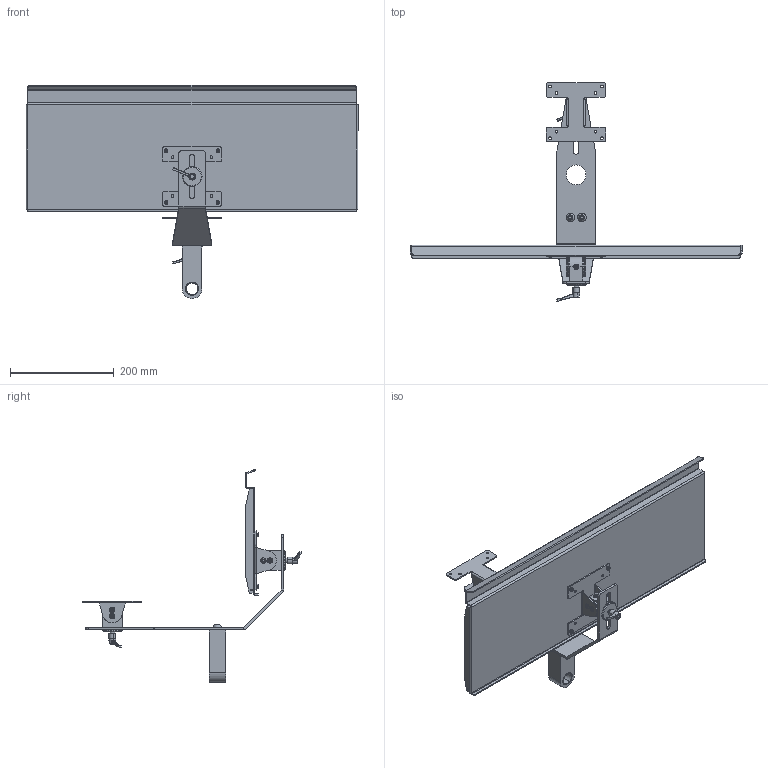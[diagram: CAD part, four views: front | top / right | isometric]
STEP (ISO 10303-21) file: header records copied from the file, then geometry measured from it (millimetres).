
FILE_DESCRIPTION (( 'STEP AP203' ), '1' );
FILE_NAME ('70-0080-00 REV 2, INTEGRATED WORKSTATION.STEP', '2024-09-30T14:07:45', ( '' ), ( '' ), 'SwSTEP 2.0', 'SolidWorks 2023', '' );
FILE_SCHEMA (( 'CONFIG_CONTROL_DESIGN' ));
Length unit declared in the file: inch
Products named in the file (22): 11-0027-10 REV 2, PLASTIC DISC, VESA; 002-088-00, FHSCS 10-32 x .5L, BO_002-088-00; 42-0060-00 REV 1, VESA SUB ASSEMBLY, INT. WORKSTATION; 41-0061-1X REV 2, BODY, VESA, INT. WORKSTATION; 016-008-00, OILITE PLUS BEARING, 0.876 id x 1.002 od x 1.25 lg; 11-0027-00 REV 1, PLASTIC DISC, BRAKE ASSEMBLY_MACHINE; 11-0406-00 REV 1, KEYBOARD TRAY, 25x8, BLACK; 41-0061-10 REV 2, BODY, VESA, INT. WORKSTATION, BLACK; 71-0072-00 REV 1, EXTENSION ARM, BLACK; 006-002-00_006-002-00; 11-0405-00 REV 2, BRACKET, INTEGRATED WORKSTATION, BLACK; 70-0080-00 REV 2, INTEGRATED WORKSTATION; 007-034-00, SHSS, .375-24, .25L_007-034-00; 019-004_019-004; 007-017-00, SHSS, 1''4-20, .25L_DEFAULT; 016-012-00, OILITE PLUS BEARING, .876 IDx1.0 OD x 1.0; 11-0062-00 REV 3, BRACKET, VESA, SHEETMETAL, BLACK; 025-064-00, LOCK LEVER, QUARTER20 x .390; 71-0072-0X REV 1, EXTENSION ARM, RAW; 41-0063-00 REV 1, PIN, TILT, VESA; 002-306-00, BHSCS, 3''8-16 x .625
Assembly tree (45 placements, depth 4):
  70-0080-00 REV 2, INTEGRATED WORKSTATION
    42-0060-00 REV 1, VESA SUB ASSEMBLY, INT. WORKSTATION
      41-0061-10 REV 2, BODY, VESA, INT. WORKSTATION, BLACK
        41-0061-1X REV 2, BODY, VESA, INT. WORKSTATION
      41-0063-00 REV 1, PIN, TILT, VESA
      11-0027-10 REV 2, PLASTIC DISC, VESA  x2
      11-0062-00 REV 3, BRACKET, VESA, SHEETMETAL, BLACK
      11-0027-00 REV 1, PLASTIC DISC, BRAKE ASSEMBLY_MACHINE
      025-064-00, LOCK LEVER, QUARTER20 x .390
      016-012-00, OILITE PLUS BEARING, .876 IDx1.0 OD x 1.0
      002-088-00, FHSCS 10-32 x .5L, BO_002-088-00  x4
      007-034-00, SHSS, .375-24, .25L_007-034-00
    11-0405-00 REV 2, BRACKET, INTEGRATED WORKSTATION, BLACK
    42-0060-00 REV 1, VESA SUB ASSEMBLY, INT. WORKSTATION
      41-0061-10 REV 2, BODY, VESA, INT. WORKSTATION, BLACK
        41-0061-1X REV 2, BODY, VESA, INT. WORKSTATION
      41-0063-00 REV 1, PIN, TILT, VESA
      11-0027-10 REV 2, PLASTIC DISC, VESA  x2
      11-0062-00 REV 3, BRACKET, VESA, SHEETMETAL, BLACK
      11-0027-00 REV 1, PLASTIC DISC, BRAKE ASSEMBLY_MACHINE
      025-064-00, LOCK LEVER, QUARTER20 x .390
      016-012-00, OILITE PLUS BEARING, .876 IDx1.0 OD x 1.0
      002-088-00, FHSCS 10-32 x .5L, BO_002-088-00  x4
      007-034-00, SHSS, .375-24, .25L_007-034-00
    11-0406-00 REV 1, KEYBOARD TRAY, 25x8, BLACK
    71-0072-00 REV 1, EXTENSION ARM, BLACK
      71-0072-0X REV 1, EXTENSION ARM, RAW
    016-008-00, OILITE PLUS BEARING, 0.876 id x 1.002 od x 1.25 lg
    007-017-00, SHSS, 1''4-20, .25L_DEFAULT
    002-306-00, BHSCS, 3''8-16 x .625  x2
    006-002-00_006-002-00  x4
    019-004_019-004  x4
Bounding box: 641.2 x 422.2 x 411.68 mm (x, y, z)
Volume: 828770.9 mm3; surface area: 566496 mm2
Topology: 45 solids, 45 shells, 2019 faces, 4976 edges, 3064 vertices
Faces by surface type: cylinder 963, cone 508, plane 432, torus 64, bspline 48, sphere 4
Entity records: 31285 total; most frequent: CARTESIAN_POINT 12162, ORIENTED_EDGE 3448, DIRECTION 3323, EDGE_CURVE 1724, AXIS2_PLACEMENT_3D 1292, VERTEX_POINT 1058, EDGE_LOOP 800, VECTOR 739
